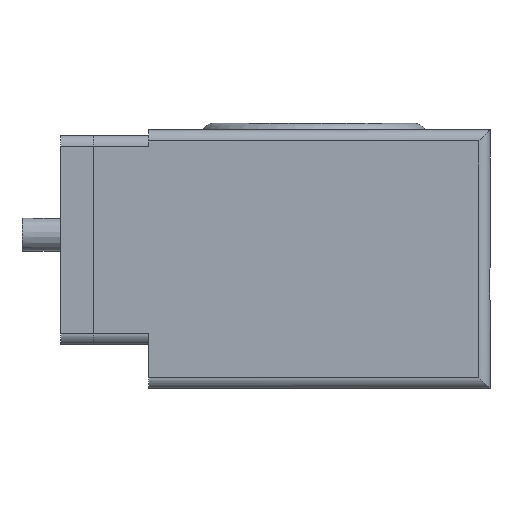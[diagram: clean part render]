
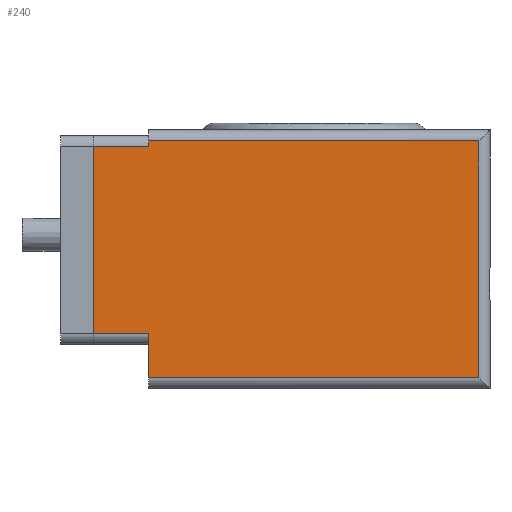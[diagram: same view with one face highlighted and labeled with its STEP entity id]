
A CAD part, left-side view. The second image highlights one B-rep face of the part: STEP entity #240.
In plain terms, the highlighted planar face has unit normal (-1, 0, 0).
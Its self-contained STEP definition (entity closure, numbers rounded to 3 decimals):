
#240=ADVANCED_FACE('',(#589),#590,.F.);
#589=FACE_OUTER_BOUND('',#1070,.T.);
#590=PLANE('',#1071);
#1070=EDGE_LOOP('',(#1719,#1720,#1721,#1722,#1723,#1724,#1725,#1726));
#1071=AXIS2_PLACEMENT_3D('',#1727,#1728,#1729);
#1719=ORIENTED_EDGE('',*,*,#2564,.T.);
#1720=ORIENTED_EDGE('',*,*,#2565,.T.);
#1721=ORIENTED_EDGE('',*,*,#2566,.T.);
#1722=ORIENTED_EDGE('',*,*,#2561,.T.);
#1723=ORIENTED_EDGE('',*,*,#2418,.T.);
#1724=ORIENTED_EDGE('',*,*,#2558,.T.);
#1725=ORIENTED_EDGE('',*,*,#2442,.T.);
#1726=ORIENTED_EDGE('',*,*,#2567,.T.);
#1727=CARTESIAN_POINT('',(-33.0,-8.0,9.0));
#1728=DIRECTION('',(1.0,0.0,0.0));
#1729=DIRECTION('',(0.0,1.0,0.0));
#2418=EDGE_CURVE('',#2797,#2795,#2798,.T.);
#2442=EDGE_CURVE('',#2840,#2838,#2841,.T.);
#2558=EDGE_CURVE('',#2795,#2840,#3018,.T.);
#2561=EDGE_CURVE('',#3022,#2797,#3023,.T.);
#2564=EDGE_CURVE('',#3026,#3027,#3028,.T.);
#2565=EDGE_CURVE('',#3027,#3029,#3030,.T.);
#2566=EDGE_CURVE('',#3029,#3022,#3031,.T.);
#2567=EDGE_CURVE('',#2838,#3026,#3032,.T.);
#2795=VERTEX_POINT('',#3357);
#2797=VERTEX_POINT('',#3359);
#2798=LINE('',#3360,#3361);
#2838=VERTEX_POINT('',#3487);
#2840=VERTEX_POINT('',#3489);
#2841=LINE('',#3490,#3491);
#3018=LINE('',#3778,#3779);
#3022=VERTEX_POINT('',#3784);
#3023=LINE('',#3785,#3786);
#3026=VERTEX_POINT('',#3789);
#3027=VERTEX_POINT('',#3790);
#3028=LINE('',#3791,#3792);
#3029=VERTEX_POINT('',#3793);
#3030=LINE('',#3794,#3795);
#3031=LINE('',#3796,#3797);
#3032=LINE('',#3798,#3799);
#3357=CARTESIAN_POINT('',(-33.0,-38.0,8.5));
#3359=CARTESIAN_POINT('',(-33.0,-38.0,-13.0));
#3360=CARTESIAN_POINT('',(-33.0,-38.0,9.5));
#3361=VECTOR('',#4187,1.0);
#3487=CARTESIAN_POINT('',(-33.0,-8.0,8.0));
#3489=CARTESIAN_POINT('',(-33.0,-8.0,8.5));
#3490=CARTESIAN_POINT('',(-33.0,-8.0,9.5));
#3491=VECTOR('',#4220,1.0);
#3778=CARTESIAN_POINT('',(-33.0,-8.0,8.5));
#3779=VECTOR('',#4369,1.0);
#3784=CARTESIAN_POINT('',(-33.0,-8.0,-13.0));
#3785=CARTESIAN_POINT('',(-33.0,-8.0,-13.0));
#3786=VECTOR('',#4371,1.0);
#3789=CARTESIAN_POINT('',(-33.0,-3.0,8.0));
#3790=CARTESIAN_POINT('',(-33.0,-3.0,-9.0));
#3791=CARTESIAN_POINT('',(-33.0,-3.0,9.0));
#3792=VECTOR('',#4375,1.0);
#3793=CARTESIAN_POINT('',(-33.0,-8.0,-9.0));
#3794=CARTESIAN_POINT('',(-33.0,-8.0,-9.0));
#3795=VECTOR('',#4376,1.0);
#3796=CARTESIAN_POINT('',(-33.0,-8.0,9.5));
#3797=VECTOR('',#4377,1.0);
#3798=CARTESIAN_POINT('',(-33.0,-3.0,8.0));
#3799=VECTOR('',#4378,1.0);
#4187=DIRECTION('',(0.0,0.0,1.0));
#4220=DIRECTION('',(0.0,0.0,-1.0));
#4369=DIRECTION('',(0.0,1.0,0.0));
#4371=DIRECTION('',(0.0,-1.0,0.0));
#4375=DIRECTION('',(0.0,0.0,-1.0));
#4376=DIRECTION('',(0.0,-1.0,0.0));
#4377=DIRECTION('',(0.0,0.0,-1.0));
#4378=DIRECTION('',(0.0,1.0,0.0));
